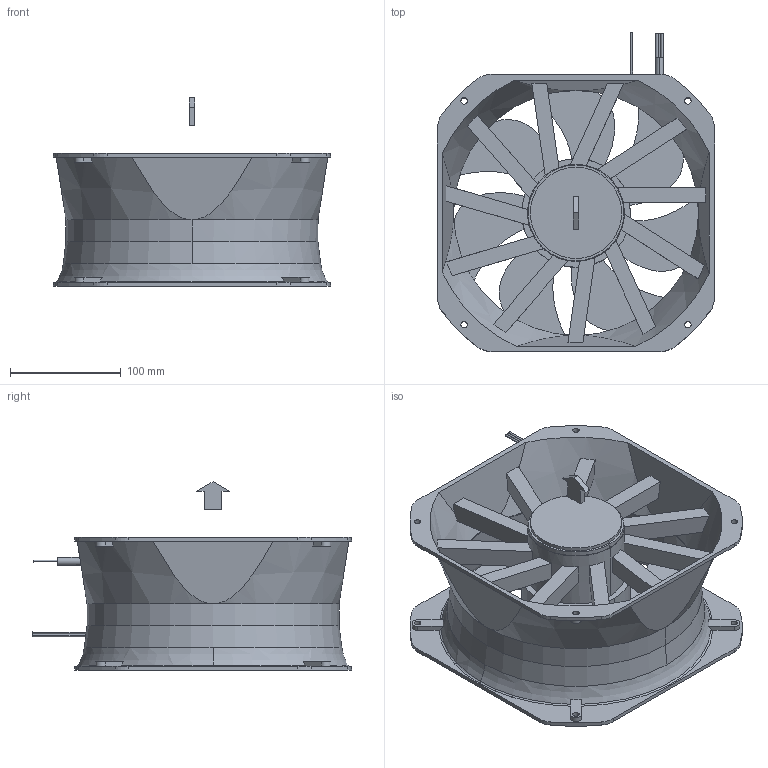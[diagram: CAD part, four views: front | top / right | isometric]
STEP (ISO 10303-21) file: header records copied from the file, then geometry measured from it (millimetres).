
FILE_DESCRIPTION( ( '' ), '1' );
FILE_NAME( 'c:/cad_url_generator/oriental/selction_from_product_tree/fan/propeller_fan/mrs_series/250_120.asmtab/MRS25-BM(100).STEP', '2012-06-15T02:26:30', ( '' ), ( '' ), ' ', ' ', ' ' );
FILE_SCHEMA( ( 'CONFIG_CONTROL_DESIGN' ) );
Length unit declared in the file: millimetre
Products named in the file (2): 1; 2
Bounding box: 250 x 288 x 170 mm (x, y, z)
Volume: 1396948.9 mm3; surface area: 377575.3 mm2
Topology: 2 solids, 2 shells, 295 faces, 808 edges, 534 vertices
Faces by surface type: plane 144, cylinder 127, torus 14, cone 10
Entity records: 9954 total; most frequent: CARTESIAN_POINT 2127, DIRECTION 1696, ORIENTED_EDGE 1616, EDGE_CURVE 808, AXIS2_PLACEMENT_3D 670, VERTEX_POINT 534, CIRCLE 373, LINE 356
